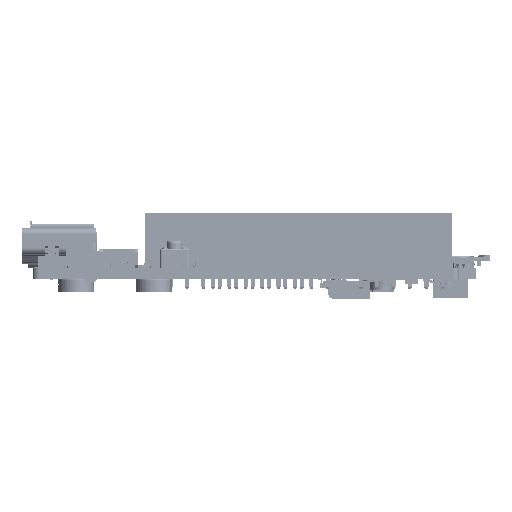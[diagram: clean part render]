
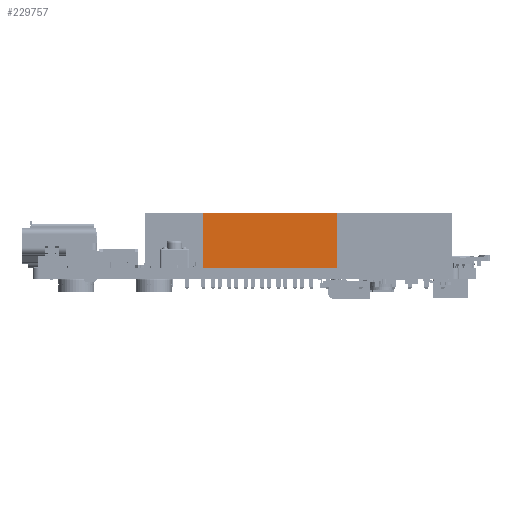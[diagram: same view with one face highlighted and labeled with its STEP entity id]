
A CAD part, left-side view. The second image highlights one B-rep face of the part: STEP entity #229757.
In plain terms, the highlighted planar face has unit normal (-1, 0, 0) as drawn and (0, -1, 0) by its records, which use the part's own axes.
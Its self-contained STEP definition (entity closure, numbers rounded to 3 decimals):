
#12597=PLANE('',#248933);
#24280=FACE_OUTER_BOUND('',#37798,.T.);
#37798=EDGE_LOOP('',(#213031,#213032,#213033,#213034));
#63012=LINE('',#385298,#88839);
#63014=LINE('',#385304,#88841);
#63017=LINE('',#385309,#88844);
#63018=LINE('',#385310,#88845);
#88839=VECTOR('',#310029,1.);
#88841=VECTOR('',#310033,1.);
#88844=VECTOR('',#310038,1.);
#88845=VECTOR('',#310039,1.);
#116734=VERTEX_POINT('',#385291);
#116737=VERTEX_POINT('',#385296);
#116739=VERTEX_POINT('',#385301);
#116740=VERTEX_POINT('',#385303);
#148954=EDGE_CURVE('',#116737,#116734,#63012,.T.);
#148956=EDGE_CURVE('',#116739,#116740,#63014,.T.);
#148959=EDGE_CURVE('',#116737,#116740,#63017,.T.);
#148960=EDGE_CURVE('',#116734,#116739,#63018,.T.);
#213031=ORIENTED_EDGE('',*,*,#148959,.T.);
#213032=ORIENTED_EDGE('',*,*,#148956,.F.);
#213033=ORIENTED_EDGE('',*,*,#148960,.F.);
#213034=ORIENTED_EDGE('',*,*,#148954,.F.);
#229757=ADVANCED_FACE('',(#24280),#12597,.F.);
#248933=AXIS2_PLACEMENT_3D('',#385308,#310036,#310037);
#310029=DIRECTION('',(1.,0.,0.));
#310033=DIRECTION('',(-1.,0.,0.));
#310036=DIRECTION('center_axis',(0.,1.,0.));
#310037=DIRECTION('ref_axis',(0.,0.,
1.));
#310038=DIRECTION('',(0.,0.,-1.));
#310039=DIRECTION('',(0.,0.,-1.));
#385291=CARTESIAN_POINT('',(10.327,-1.277,8.5));
#385296=CARTESIAN_POINT('',(-10.393,-1.277,8.5));
#385298=CARTESIAN_POINT('',(-0.033,-1.277,8.5));
#385301=CARTESIAN_POINT('',(10.327,-1.277,0.));
#385303=CARTESIAN_POINT('',(-10.393,-1.277,0.));
#385304=CARTESIAN_POINT('',(-0.033,-1.277,0.));
#385308=CARTESIAN_POINT('Origin',(-0.033,-1.277,
4.25));
#385309=CARTESIAN_POINT('',(-10.393,-1.277,4.25));
#385310=CARTESIAN_POINT('',(10.327,-1.277,4.25));
